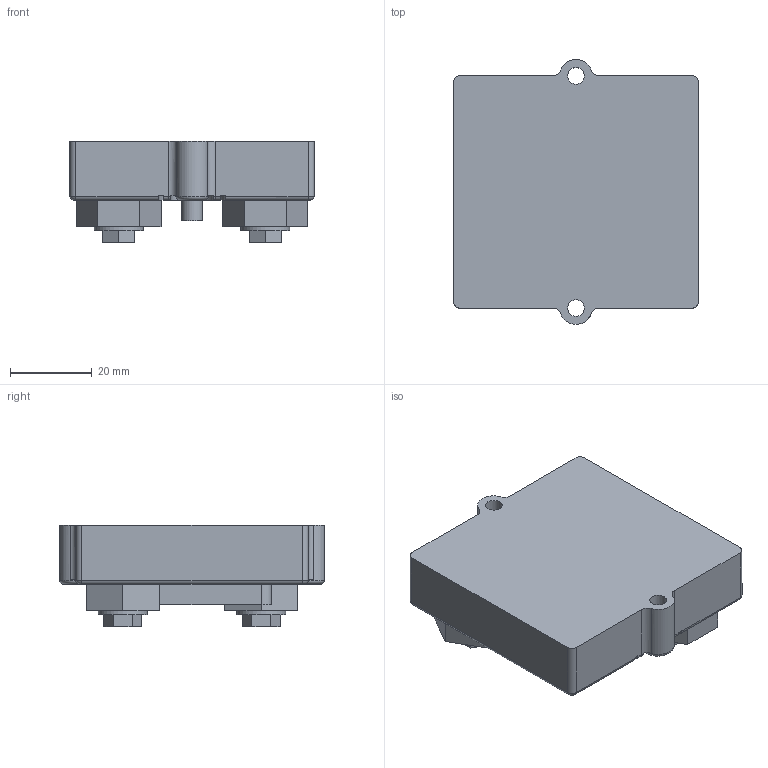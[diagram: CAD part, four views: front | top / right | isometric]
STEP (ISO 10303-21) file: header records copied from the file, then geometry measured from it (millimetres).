
FILE_DESCRIPTION(('STEP AP203'), '1');
FILE_NAME('Ð1-150Ì-25x25', '', ('UNSPECIFIED'), ('UNSPECIFIED'), 'C3D Converter', 'C3D Toolkit', '');
FILE_SCHEMA(('CONFIG_CONTROL_DESIGN'));
Length unit declared in the file: millimetre
Bounding box: 60 x 65 x 25 mm (x, y, z)
Volume: 53297.4 mm3; surface area: 13897.7 mm2
Topology: 1 solids, 3 shells, 146 faces, 375 edges, 248 vertices
Faces by surface type: plane 92, cylinder 42, torus 10, cone 2
Full cylindrical faces by diameter (mm): 4.1 x2, 5 x2, 7 x2, 8 x2, 12 x2, 16.2 x2
Entity records: 5740 total; most frequent: CARTESIAN_POINT 974, DIRECTION 735, ORIENTED_EDGE 714, EDGE_CURVE 357, AXIS2_PLACEMENT_3D 247, VERTEX_POINT 246, LINE 241, VECTOR 241
